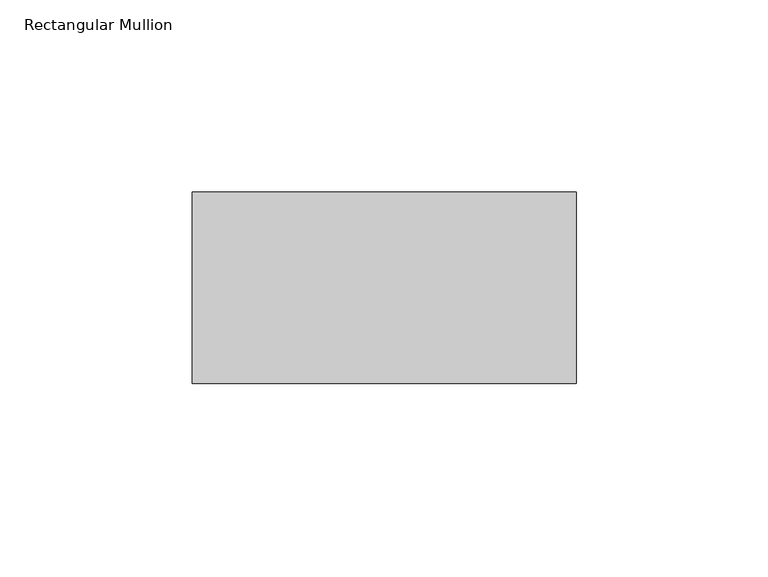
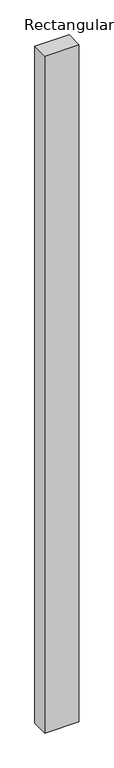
"""IFC4 building model written with IfcOpenShell, lengths in millimetres: member geometry, Rectangular Mullion : Mullion_Curtain Wall_Generic Showcase_50x100mm."""

from ifc_helpers import new_model, si_unit, frame, origin, place, context, project, spatial, polyline, outline, extrude, source, transform, mapped, element, save


def rectangular_mullion_423c9335(model_context):
    return source(origin(), model_context, "Body", "SweptSolid", [
        extrude(outline(polyline([(0.0, 0.0), (0.0, -50.0), (-100.0, -50.0), (-100.0, 0.0), (0.0, 0.0)])), frame((0.0, 0.0, -2096.0060738), z_axis=(0.0, 0.0, 1.0), x_axis=(1.0, 0.0, 0.0)), (0.0, 0.0, 1.0), 2096.0060738),
    ])


if __name__ == "__main__":
    model = new_model("IFC4")
    model_context = context("Model", 3, world=origin())
    ifc_project = project(units=[si_unit("LENGTHUNIT", "METRE", prefix="MILLI")], contexts=[model_context])
    site = spatial("IfcSite", under=ifc_project)
    building = spatial("IfcBuilding", under=site)
    placement = place(None, origin())
    rectangular_mullion_shape = rectangular_mullion_423c9335(model_context)
    element("IfcMember", 1, ObjectType="Rectangular Mullion : Mullion_Curtain Wall_Generic Showcase_50x100mm", at=placement, inside=building, context=model_context, shape_type="MappedRepresentation", body=[
        mapped(rectangular_mullion_shape, transform((0.0, 0.0, 0.0), x_axis=(1.0, 0.0, 0.0), y_axis=(0.0, 1.0, 0.0), z_axis=(0.0, 0.0, 1.0))),
    ])
    save(model, "model.ifc")
